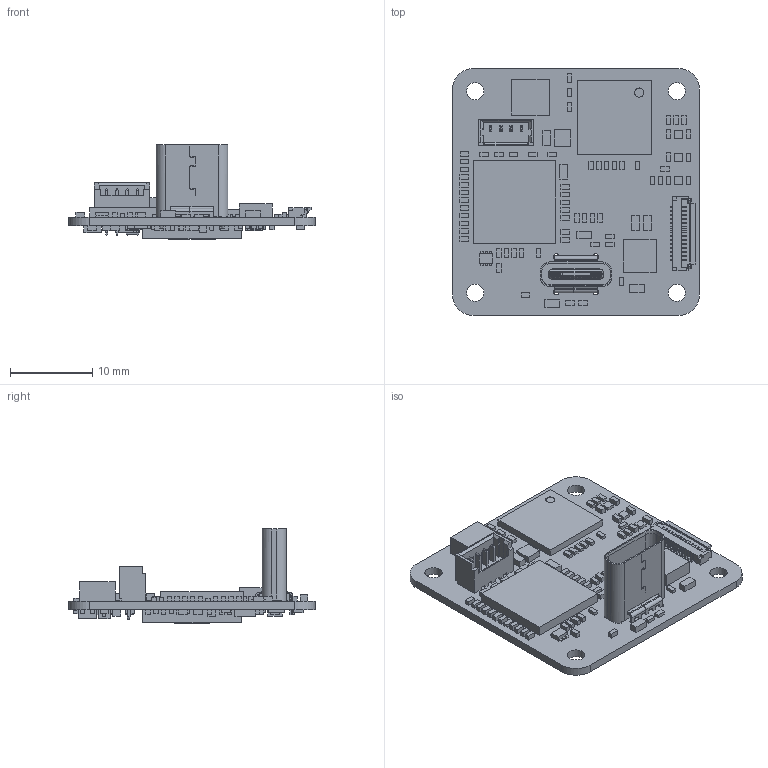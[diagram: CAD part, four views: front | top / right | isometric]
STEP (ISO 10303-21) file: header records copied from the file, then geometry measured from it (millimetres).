
FILE_DESCRIPTION(('Open CASCADE Model'),'2;1');
FILE_NAME('Open CASCADE Shape Model','2024-07-15T17:12:02',('Author'),( 'Open CASCADE'),'Open CASCADE STEP processor 7.5','Open CASCADE 7.5' ,'Unknown');
FILE_SCHEMA(('AUTOMOTIVE_DESIGN { 1 0 10303 214 1 1 1 1 }'));
Length unit declared in the file: millimetre
Products named in the file (261): PCB; Board; Open CASCADE STEP translator 7.5 511.1.1; U1; 6949274016; Extruded; 6949274176; C95; 6769696560; C94; 6769684640; C37; C36; 6769681200; C34; R5; 6769697840; R4; 6769695280; C51; C50; C49; 6769691840; C45; C40; C39; U11; 6949271776; U8; U12; C113; 6769692480; C114; R39; 7076073744; J3; FH33-14S-0.5SH; U6; 7076067824; C64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
Assembly tree (593 placements, depth 5):
  PCB
    Board
      Open CASCADE STEP translator 7.5 511.1.1
    U1
      6949274016
        Extruded
      6949274176
        Extruded
    C95
      6769696560
        Extruded
    C94
      6769684640
        Extruded
    C37
      6769684640
        Extruded
    C36
      6769681200
        Extruded
    C34
      6769681200
        Extruded
    R5
      6769697840
        Extruded
    R4
      6769695280
        Extruded
    C51
      6769696560
        Extruded
    C50
      6769696560
        Extruded
    C49
      6769691840
        Extruded
    C45
      6769691840
        Extruded
    C40
      6769691840
        Extruded
    C39
      6769696560
        Extruded
    U11
      6949271776
        Extruded
    U8
      6949271776
        Extruded
    U12
      6949271776
        Extruded
    C113
      6769692480
        Extruded
    C114
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Bounding box: 30.01 x 30 x 11.43 mm (x, y, z)
Volume: 1686.2 mm3; surface area: 4456.4 mm2
Topology: 369 solids, 370 shells, 2959 faces, 7437 edges, 4921 vertices
Faces by surface type: plane 2499, cylinder 271, sphere 169, cone 20
Full cylindrical faces by diameter (mm): 0.5 x4, 0.66 x1, 0.7 x4, 1.125 x1, 2.1 x4
Entity records: 64312 total; most frequent: CARTESIAN_POINT 10946, DIRECTION 10246, ORIENTED_EDGE 9869, EDGE_CURVE 4935, LINE 4332, VECTOR 4332, VERTEX_POINT 3234, AXIS2_PLACEMENT_3D 2957
